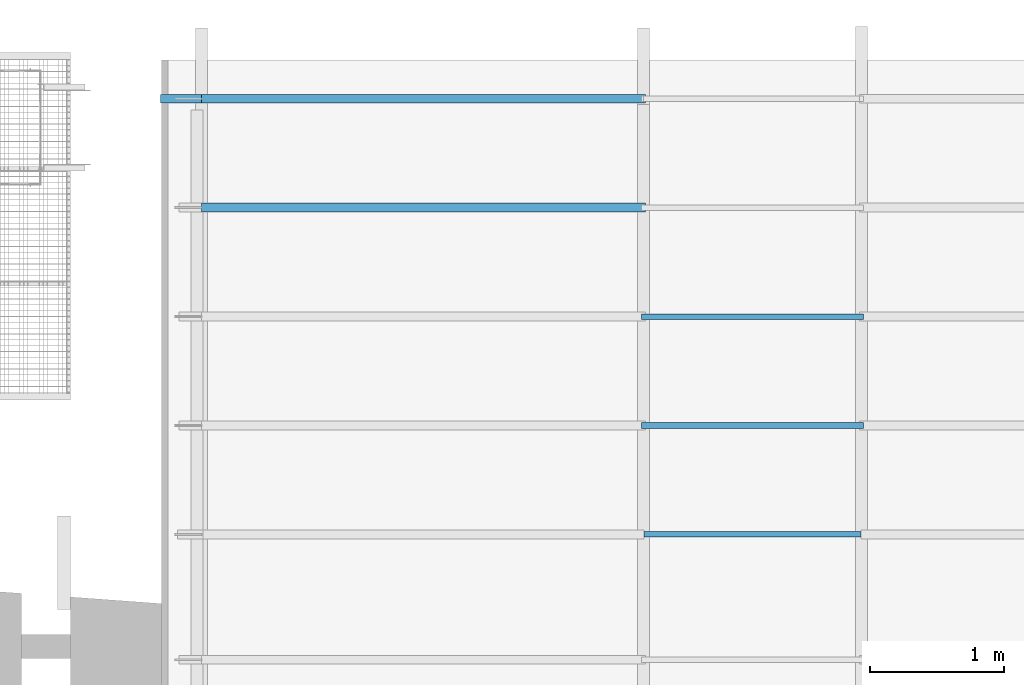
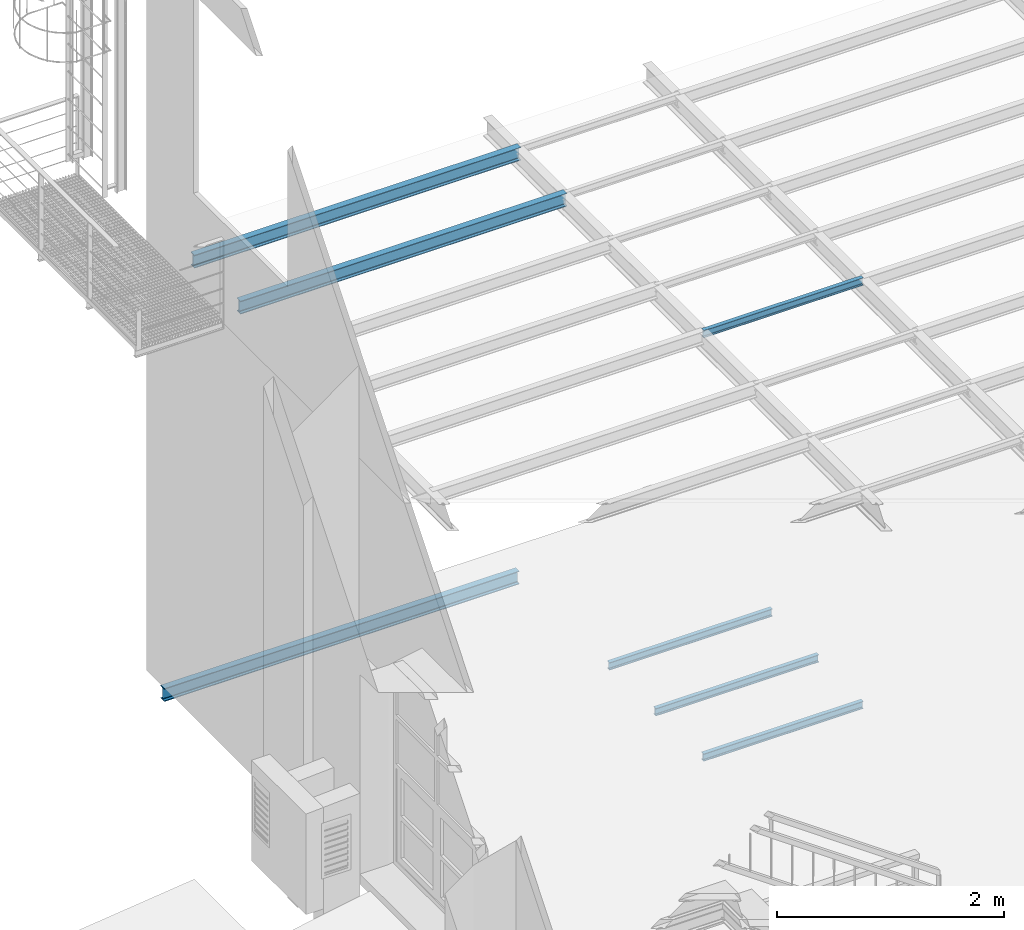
# One storey, part 19 of 33: 7 beams.
"""IFC2X3 building model written with IfcOpenShell, lengths in metres."""

from ifc_helpers import new_model, entity, si_unit, converted_unit, derived_unit, direction, frame, frame_2d, origin, place, context, subcontext, project, spatial, polyline, circle_curve, parameter, trimmed, segment, composite_curve, outline, extrude, material, type_object, element, save


model = new_model("IFC2X3")

# Units and contexts
model_context = context("Model", 3, precision=1e-05, world=origin(), true_north=direction((6.12303176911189e-17, 1.0)))
body_context = subcontext(model_context, "Body", "Model", "MODEL_VIEW")
ifc_project = project(units=[si_unit("LENGTHUNIT", "METRE"), si_unit("AREAUNIT", "SQUARE_METRE"), si_unit("VOLUMEUNIT", "CUBIC_METRE"), converted_unit("PLANEANGLEUNIT", "DEGREE", entity("IfcRatioMeasure", 0.0174532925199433), si_unit("PLANEANGLEUNIT", "RADIAN"), dimensions=[0, 0, 0, 0, 0, 0, 0]), si_unit("MASSUNIT", "GRAM", prefix="KILO"), derived_unit("MASSDENSITYUNIT", [(si_unit("MASSUNIT", "GRAM", prefix="KILO"), 1), (si_unit("LENGTHUNIT", "METRE"), -3)]), derived_unit("MOMENTOFINERTIAUNIT", [(si_unit("LENGTHUNIT", "METRE"), 4)]), si_unit("TIMEUNIT", "SECOND"), si_unit("FREQUENCYUNIT", "HERTZ"), si_unit("THERMODYNAMICTEMPERATUREUNIT", "DEGREE_CELSIUS"), derived_unit("THERMALTRANSMITTANCEUNIT", [(si_unit("MASSUNIT", "GRAM", prefix="KILO"), 1), (si_unit("THERMODYNAMICTEMPERATUREUNIT", "KELVIN"), -1), (si_unit("TIMEUNIT", "SECOND"), -3)]), derived_unit("VOLUMETRICFLOWRATEUNIT", [(si_unit("LENGTHUNIT", "METRE"), 3), (si_unit("TIMEUNIT", "SECOND"), -1)]), si_unit("ELECTRICCURRENTUNIT", "AMPERE"), si_unit("ELECTRICVOLTAGEUNIT", "VOLT"), si_unit("POWERUNIT", "WATT"), si_unit("FORCEUNIT", "NEWTON", prefix="KILO"), si_unit("ILLUMINANCEUNIT", "LUX"), si_unit("LUMINOUSFLUXUNIT", "LUMEN"), si_unit("LUMINOUSINTENSITYUNIT", "CANDELA"), derived_unit("USERDEFINED", [(si_unit("MASSUNIT", "GRAM", prefix="KILO"), -1), (si_unit("LENGTHUNIT", "METRE"), -2), (si_unit("TIMEUNIT", "SECOND"), 3), (si_unit("LUMINOUSFLUXUNIT", "LUMEN"), 1)]), derived_unit("LINEARVELOCITYUNIT", [(si_unit("LENGTHUNIT", "METRE"), 1), (si_unit("TIMEUNIT", "SECOND"), -1)]), si_unit("PRESSUREUNIT", "PASCAL"), derived_unit("USERDEFINED", [(si_unit("LENGTHUNIT", "METRE"), -2), (si_unit("MASSUNIT", "GRAM", prefix="KILO"), 1), (si_unit("TIMEUNIT", "SECOND"), -2)]), derived_unit("LINEARFORCEUNIT", [(si_unit("MASSUNIT", "GRAM", prefix="KILO"), 1), (si_unit("LENGTHUNIT", "METRE"), 1), (si_unit("TIMEUNIT", "SECOND"), -2), (si_unit("LENGTHUNIT", "METRE"), -1)]), derived_unit("PLANARFORCEUNIT", [(si_unit("MASSUNIT", "GRAM", prefix="KILO"), 1), (si_unit("LENGTHUNIT", "METRE"), 1), (si_unit("TIMEUNIT", "SECOND"), -2), (si_unit("LENGTHUNIT", "METRE"), -2)])], contexts=[model_context])

# Site, building, storey
site_placement = place(None, origin())
site = spatial("IfcSite", under=ifc_project, at=site_placement, Name="Superficie", CompositionType="ELEMENT")
building_placement = place(site_placement, origin())
building = spatial("IfcBuilding", under=site, at=building_placement, Name="Telegestiones", CompositionType="ELEMENT")
storey_placement = place(building_placement, frame((0.0, 0.0, 4.94)))
storey = spatial("IfcBuildingStorey", under=building, at=storey_placement, Name="Nivel 1_NPT", CompositionType="ELEMENT", Elevation=4.94)

# Beams
ifc_material = material(Name="Metal - Acero - 345 MPa")
beam_type_1 = type_object("IfcBeamType", Name="IPN - Secciones en I con alas cónicas:IPN 140", PredefinedType="NOTDEFINED")
beam_1_placement = place(storey_placement, frame((6.02684358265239, 13.4536072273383, 0.0)))
element("IfcBeam", 1, at=beam_1_placement, inside=storey, type_object=beam_type_1, material=ifc_material, Name="IPN - Secciones en I con alas cónicas:IPN 140", ObjectType="IPN - Secciones en I con alas cónicas:IPN 140", context=body_context, shape_type="SweptSolid", body=[
    extrude(outline(composite_curve([segment(polyline([(0.0666671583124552, -0.0330000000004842), (0.069999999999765, -0.0330000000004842)]), True, "CONTINUOUS"), segment(polyline([(0.069999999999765, -0.0330000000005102), (0.0700000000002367, 0.0329999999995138)]), True, "CONTINUOUS"), segment(polyline([(0.0700000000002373, 0.03299999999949), (0.0666671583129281, 0.0329999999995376)]), True, "CONTINUOUS"), segment(trimmed(circle_curve(frame_2d((0.0666671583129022, 0.0295999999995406), x_axis=(0.0, 1.0)), 0.00339999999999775), [parameter(0.0)], [parameter(82.0303896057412)], True, "PARAMETER"), True, "CONTINUOUS"), segment(polyline([(0.0632999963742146, 0.0300714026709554), (0.060176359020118, 0.00775970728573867)]), True, "CONTINUOUS"), segment(trimmed(circle_curve(frame_2d((0.0545314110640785, 0.00854999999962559), x_axis=(0.990341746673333, -0.138647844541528)), 0.00570000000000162), [parameter(277.96961039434)], [parameter(0.0)], True, "PARAMETER"), False, "CONTINUOUS"), segment(polyline([(0.0545314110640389, 0.0028499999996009), (-0.054531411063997, 0.0028500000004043)]), True, "CONTINUOUS"), segment(trimmed(circle_curve(frame_2d((-0.0545314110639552, 0.00855000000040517), x_axis=(0.0, -1.0)), 0.00570000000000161), [parameter(277.969610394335)], [parameter(0.0)], True, "PARAMETER"), False, "CONTINUOUS"), segment(polyline([(-0.0601763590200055, 0.00775970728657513), (-0.0632999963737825, 0.0300714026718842)]), True, "CONTINUOUS"), segment(trimmed(circle_curve(frame_2d((-0.0666671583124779, 0.0296000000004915), x_axis=(0.990341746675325, 0.138647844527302)), 0.00339999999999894), [parameter(0.0)], [parameter(82.0303896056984)], True, "PARAMETER"), True, "CONTINUOUS"), segment(polyline([(-0.0666671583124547, 0.0330000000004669), (-0.0699999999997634, 0.0330000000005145)]), True, "CONTINUOUS"), segment(polyline([(-0.0699999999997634, 0.0330000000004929), (-0.0700000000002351, -0.0329999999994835)]), True, "CONTINUOUS"), segment(polyline([(-0.0700000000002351, -0.0329999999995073), (-0.0666671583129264, -0.0329999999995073)]), True, "CONTINUOUS"), segment(trimmed(circle_curve(frame_2d((-0.066667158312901, -0.0295999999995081), x_axis=(0.0, -1.0)), 0.00339999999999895), [parameter(0.0)], [parameter(82.0303896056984)], True, "PARAMETER"), True, "CONTINUOUS"), segment(polyline([(-0.0632999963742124, -0.0300714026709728), (-0.0601763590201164, -0.00775970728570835)]), True, "CONTINUOUS"), segment(trimmed(circle_curve(frame_2d((-0.0545314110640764, -0.00854999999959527), x_axis=(-0.990341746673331, 0.138647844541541)), 0.00570000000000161), [parameter(277.969610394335)], [parameter(0.0)], True, "PARAMETER"), False, "CONTINUOUS"), segment(polyline([(-0.0545314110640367, -0.00284999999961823), (0.0545314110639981, -0.00285000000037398)]), True, "CONTINUOUS"), segment(trimmed(circle_curve(frame_2d((0.0545314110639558, -0.00855000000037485), x_axis=(0.0, 1.0)), 0.00570000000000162), [parameter(277.96961039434)], [parameter(0.0)], True, "PARAMETER"), False, "CONTINUOUS"), segment(polyline([(0.0601763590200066, -0.00775970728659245), (0.0632999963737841, -0.0300714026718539)]), True, "CONTINUOUS"), segment(trimmed(circle_curve(frame_2d((0.0666671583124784, -0.0296000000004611), x_axis=(-0.990341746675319, -0.138647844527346)), 0.00339999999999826), [parameter(0.0)], [parameter(82.030389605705)], True, "PARAMETER"), True, "CONTINUOUS")], self_intersect=False)), frame((0.000484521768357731, 0.0, -0.100000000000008), z_axis=(1.0, 0.0, 0.0), x_axis=(0.0, 0.0, -1.0)), (0.0, 0.0, 1.0), 3.617),
])
beam_2_placement = place(storey_placement, frame((6.3348126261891, 13.4536072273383, 4.56)))
element("IfcBeam", 2, at=beam_2_placement, inside=storey, type_object=beam_type_1, material=ifc_material, Name="IPN - Secciones en I con alas cónicas:IPN 140", ObjectType="IPN - Secciones en I con alas cónicas:IPN 140", context=body_context, shape_type="SweptSolid", body=[
    extrude(outline(composite_curve([segment(polyline([(0.0666671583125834, -0.0330000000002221), (0.0699999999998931, -0.0330000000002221)]), True, "CONTINUOUS"), segment(polyline([(0.0699999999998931, -0.0330000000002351), (0.0700000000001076, 0.0329999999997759)]), True, "CONTINUOUS"), segment(polyline([(0.0700000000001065, 0.0329999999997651), (0.0666671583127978, 0.0329999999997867)]), True, "CONTINUOUS"), segment(trimmed(circle_curve(frame_2d((0.0666671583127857, 0.0295999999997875), x_axis=(0.0, 1.0)), 0.00339999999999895), [parameter(0.0)], [parameter(82.0303896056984)], True, "PARAMETER"), True, "CONTINUOUS"), segment(polyline([(0.0632999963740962, 0.0300714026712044), (0.0601763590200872, 0.00775970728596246)]), True, "CONTINUOUS"), segment(trimmed(circle_curve(frame_2d((0.0545314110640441, 0.00854999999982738), x_axis=(0.990341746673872, -0.13864784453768)), 0.00570000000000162), [parameter(277.969610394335)], [parameter(0.0)], True, "PARAMETER"), False, "CONTINUOUS"), segment(polyline([(0.0545314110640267, 0.00284999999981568), (-0.0545314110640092, 0.00285000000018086)]), True, "CONTINUOUS"), segment(trimmed(circle_curve(frame_2d((-0.0545314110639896, 0.00855000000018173), x_axis=(0.0, -1.0)), 0.00570000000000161), [parameter(277.969610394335)], [parameter(0.0)], True, "PARAMETER"), False, "CONTINUOUS"), segment(polyline([(-0.0601763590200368, 0.00775970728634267), (-0.0632999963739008, 0.0300714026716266)]), True, "CONTINUOUS"), segment(trimmed(circle_curve(frame_2d((-0.0666671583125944, 0.0296000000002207), x_axis=(0.990341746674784, 0.138647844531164)), 0.00339999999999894), [parameter(0.0)], [parameter(82.0303896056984)], True, "PARAMETER"), True, "CONTINUOUS"), segment(polyline([(-0.0666671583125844, 0.0330000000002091), (-0.0699999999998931, 0.0330000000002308)]), True, "CONTINUOUS"), segment(polyline([(-0.0699999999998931, 0.0330000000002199), (-0.0700000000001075, -0.0329999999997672)]), True, "CONTINUOUS"), segment(polyline([(-0.0700000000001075, -0.0329999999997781), (-0.0666671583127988, -0.0329999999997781)]), True, "CONTINUOUS"), segment(trimmed(circle_curve(frame_2d((-0.0666671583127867, -0.0295999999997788), x_axis=(0.0, -1.0)), 0.00339999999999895), [parameter(0.0)], [parameter(82.0303896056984)], True, "PARAMETER"), True, "CONTINUOUS"), segment(polyline([(-0.0632999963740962, -0.0300714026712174), (-0.0601763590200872, -0.0077597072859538)]), True, "CONTINUOUS"), segment(trimmed(circle_curve(frame_2d((-0.0545314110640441, -0.00854999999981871), x_axis=(-0.990341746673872, 0.13864784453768)), 0.00570000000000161), [parameter(277.969610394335)], [parameter(0.0)], True, "PARAMETER"), False, "CONTINUOUS"), segment(polyline([(-0.0545314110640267, -0.00284999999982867), (0.0545314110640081, -0.0028500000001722)]), True, "CONTINUOUS"), segment(trimmed(circle_curve(frame_2d((0.0545314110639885, -0.00855000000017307), x_axis=(0.0, 1.0)), 0.00570000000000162), [parameter(277.969610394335)], [parameter(0.0)], True, "PARAMETER"), False, "CONTINUOUS"), segment(polyline([(0.0601763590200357, -0.00775970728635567), (0.0632999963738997, -0.0300714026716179)]), True, "CONTINUOUS"), segment(trimmed(circle_curve(frame_2d((0.0666671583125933, -0.029600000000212), x_axis=(-0.990341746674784, -0.138647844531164)), 0.00339999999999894), [parameter(0.0)], [parameter(82.0303896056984)], True, "PARAMETER"), True, "CONTINUOUS")], self_intersect=False)), frame((0.0, 0.0, -0.100000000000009), z_axis=(1.0, 0.0, 0.0), x_axis=(0.0, 0.0, -1.0)), (0.0, 0.0, 1.0), 3.325),
])
beam_3_placement = place(storey_placement, frame((6.3348126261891, 12.6381072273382, 4.56)))
element("IfcBeam", 3, at=beam_3_placement, inside=storey, type_object=beam_type_1, material=ifc_material, Name="IPN - Secciones en I con alas cónicas:IPN 140", ObjectType="IPN - Secciones en I con alas cónicas:IPN 140", context=body_context, shape_type="SweptSolid", body=[
    extrude(outline(composite_curve([segment(polyline([(0.0666671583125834, -0.0330000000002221), (0.0699999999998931, -0.0330000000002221)]), True, "CONTINUOUS"), segment(polyline([(0.0699999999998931, -0.0330000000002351), (0.0700000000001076, 0.0329999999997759)]), True, "CONTINUOUS"), segment(polyline([(0.0700000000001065, 0.0329999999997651), (0.0666671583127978, 0.0329999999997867)]), True, "CONTINUOUS"), segment(trimmed(circle_curve(frame_2d((0.0666671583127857, 0.0295999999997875), x_axis=(0.0, 1.0)), 0.00339999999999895), [parameter(0.0)], [parameter(82.0303896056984)], True, "PARAMETER"), True, "CONTINUOUS"), segment(polyline([(0.0632999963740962, 0.0300714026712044), (0.0601763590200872, 0.00775970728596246)]), True, "CONTINUOUS"), segment(trimmed(circle_curve(frame_2d((0.0545314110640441, 0.00854999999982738), x_axis=(0.990341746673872, -0.13864784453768)), 0.00570000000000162), [parameter(277.969610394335)], [parameter(0.0)], True, "PARAMETER"), False, "CONTINUOUS"), segment(polyline([(0.0545314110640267, 0.00284999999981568), (-0.0545314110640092, 0.00285000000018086)]), True, "CONTINUOUS"), segment(trimmed(circle_curve(frame_2d((-0.0545314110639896, 0.00855000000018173), x_axis=(0.0, -1.0)), 0.00570000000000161), [parameter(277.969610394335)], [parameter(0.0)], True, "PARAMETER"), False, "CONTINUOUS"), segment(polyline([(-0.0601763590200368, 0.00775970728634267), (-0.0632999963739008, 0.0300714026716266)]), True, "CONTINUOUS"), segment(trimmed(circle_curve(frame_2d((-0.0666671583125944, 0.0296000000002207), x_axis=(0.990341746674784, 0.138647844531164)), 0.00339999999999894), [parameter(0.0)], [parameter(82.0303896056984)], True, "PARAMETER"), True, "CONTINUOUS"), segment(polyline([(-0.0666671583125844, 0.0330000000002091), (-0.0699999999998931, 0.0330000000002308)]), True, "CONTINUOUS"), segment(polyline([(-0.0699999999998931, 0.0330000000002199), (-0.0700000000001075, -0.0329999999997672)]), True, "CONTINUOUS"), segment(polyline([(-0.0700000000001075, -0.0329999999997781), (-0.0666671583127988, -0.0329999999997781)]), True, "CONTINUOUS"), segment(trimmed(circle_curve(frame_2d((-0.0666671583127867, -0.0295999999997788), x_axis=(0.0, -1.0)), 0.00339999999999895), [parameter(0.0)], [parameter(82.0303896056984)], True, "PARAMETER"), True, "CONTINUOUS"), segment(polyline([(-0.0632999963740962, -0.0300714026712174), (-0.0601763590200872, -0.0077597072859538)]), True, "CONTINUOUS"), segment(trimmed(circle_curve(frame_2d((-0.0545314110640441, -0.00854999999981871), x_axis=(-0.990341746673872, 0.13864784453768)), 0.00570000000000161), [parameter(277.969610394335)], [parameter(0.0)], True, "PARAMETER"), False, "CONTINUOUS"), segment(polyline([(-0.0545314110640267, -0.00284999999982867), (0.0545314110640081, -0.0028500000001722)]), True, "CONTINUOUS"), segment(trimmed(circle_curve(frame_2d((0.0545314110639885, -0.00855000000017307), x_axis=(0.0, 1.0)), 0.00570000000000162), [parameter(277.969610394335)], [parameter(0.0)], True, "PARAMETER"), False, "CONTINUOUS"), segment(polyline([(0.0601763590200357, -0.00775970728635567), (0.0632999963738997, -0.0300714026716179)]), True, "CONTINUOUS"), segment(trimmed(circle_curve(frame_2d((0.0666671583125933, -0.029600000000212), x_axis=(-0.990341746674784, -0.138647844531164)), 0.00339999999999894), [parameter(0.0)], [parameter(82.0303896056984)], True, "PARAMETER"), True, "CONTINUOUS")], self_intersect=False)), frame((0.0, 0.0, -0.100000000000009), z_axis=(1.0, 0.0, 0.0), x_axis=(0.0, 0.0, -1.0)), (0.0, 0.0, 1.0), 3.325),
])
beam_type_2 = type_object("IfcBeamType", Name="IPN - Secciones en I con alas cónicas:IPN 80", PredefinedType="NOTDEFINED")
beam_4_placement = place(storey_placement, frame((9.64481262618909, 10.1916072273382, 0.0)))
element("IfcBeam", 4, at=beam_4_placement, inside=storey, type_object=beam_type_2, material=ifc_material, Name="IPN - Secciones en I con alas cónicas:IPN 80", ObjectType="IPN - Secciones en I con alas cónicas:IPN 80", context=body_context, shape_type="SweptSolid", body=[
    extrude(outline(composite_curve([segment(polyline([(0.0375704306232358, -0.0210000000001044), (0.039999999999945, -0.0210000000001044)]), True, "CONTINUOUS"), segment(polyline([(0.039999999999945, -0.0210000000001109), (0.0400000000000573, 0.0209999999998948)]), True, "CONTINUOUS"), segment(polyline([(0.0400000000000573, 0.0209999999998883), (0.0375704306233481, 0.0209999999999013)]), True, "CONTINUOUS"), segment(trimmed(circle_curve(frame_2d((0.0375704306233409, 0.0186999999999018), x_axis=(0.0, 1.0)), 0.00229999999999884), [parameter(0.0)], [parameter(82.0303896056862)], True, "PARAMETER"), True, "CONTINUOUS"), segment(polyline([(0.0352926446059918, 0.0190188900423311), (0.0333732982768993, 0.00530927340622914)]), True, "CONTINUOUS"), segment(trimmed(circle_curve(frame_2d((0.0295109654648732, 0.00584999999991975), x_axis=(0.990341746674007, -0.138647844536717)), 0.00389999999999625), [parameter(277.969610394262)], [parameter(0.0)], True, "PARAMETER"), False, "CONTINUOUS"), segment(polyline([(0.0295109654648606, 0.00194999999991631), (-0.0295109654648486, 0.00195000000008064)]), True, "CONTINUOUS"), segment(trimmed(circle_curve(frame_2d((-0.0295109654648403, 0.00585000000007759), x_axis=(0.0, -1.0)), 0.00389999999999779), [parameter(277.969610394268)], [parameter(0.0)], True, "PARAMETER"), False, "CONTINUOUS"), segment(polyline([(-0.0333732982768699, 0.00530927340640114), (-0.035292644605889, 0.0190188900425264)]), True, "CONTINUOUS"), segment(trimmed(circle_curve(frame_2d((-0.0375704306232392, 0.0187000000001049), x_axis=(0.990341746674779, 0.138647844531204)), 0.00229999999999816), [parameter(0.0)], [parameter(82.0303896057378)], True, "PARAMETER"), True, "CONTINUOUS"), segment(polyline([(-0.0375704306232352, 0.0210000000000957), (-0.0399999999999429, 0.0210000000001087)]), True, "CONTINUOUS"), segment(polyline([(-0.0399999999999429, 0.0210000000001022), (-0.0400000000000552, -0.0209999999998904)]), True, "CONTINUOUS"), segment(polyline([(-0.0400000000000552, -0.0209999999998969), (-0.0375704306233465, -0.0209999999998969)]), True, "CONTINUOUS"), segment(trimmed(circle_curve(frame_2d((-0.0375704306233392, -0.0186999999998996), x_axis=(0.0, -1.0)), 0.00229999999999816), [parameter(0.0)], [parameter(82.0303896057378)], True, "PARAMETER"), True, "CONTINUOUS"), segment(polyline([(-0.0352926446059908, -0.0190188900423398), (-0.0333732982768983, -0.00530927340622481)]), True, "CONTINUOUS"), segment(trimmed(circle_curve(frame_2d((-0.0295109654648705, -0.00584999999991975), x_axis=(-0.990341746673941, 0.138647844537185)), 0.0038999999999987), [parameter(277.969610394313)], [parameter(0.0)], True, "PARAMETER"), False, "CONTINUOUS"), segment(polyline([(-0.029510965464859, -0.00194999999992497), (0.0295109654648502, -0.00195000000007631)]), True, "CONTINUOUS"), segment(trimmed(circle_curve(frame_2d((0.0295109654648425, -0.00585000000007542), x_axis=(0.0, 1.0)), 0.00389999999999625), [parameter(277.969610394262)], [parameter(0.0)], True, "PARAMETER"), False, "CONTINUOUS"), segment(polyline([(0.0333732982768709, -0.0053092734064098), (0.0352926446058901, -0.0190188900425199)]), True, "CONTINUOUS"), segment(trimmed(circle_curve(frame_2d((0.0375704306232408, -0.0187000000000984), x_axis=(-0.990341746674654, -0.138647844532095)), 0.00229999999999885), [parameter(0.0)], [parameter(82.0303896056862)], True, "PARAMETER"), True, "CONTINUOUS")], self_intersect=False)), frame((0.00299999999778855, 0.0, -0.0700000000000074), z_axis=(1.0, 0.0, 0.0), x_axis=(0.0, 0.0, -1.0)), (0.0, 0.0, 1.0), 1.625),
])
beam_5_placement = place(storey_placement, frame((9.64481262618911, 11.8226072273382, 0.0)))
element("IfcBeam", 5, at=beam_5_placement, inside=storey, type_object=beam_type_2, material=ifc_material, Name="IPN - Secciones en I con alas cónicas:IPN 80", ObjectType="IPN - Secciones en I con alas cónicas:IPN 80", context=body_context, shape_type="SweptSolid", body=[
    extrude(outline(composite_curve([segment(polyline([(0.0375704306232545, -0.0210000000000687), (0.0399999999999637, -0.0210000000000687)]), True, "CONTINUOUS"), segment(polyline([(0.0399999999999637, -0.0210000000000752), (0.0400000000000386, 0.0209999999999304)]), True, "CONTINUOUS"), segment(polyline([(0.0400000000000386, 0.0209999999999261), (0.0375704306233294, 0.0209999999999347)]), True, "CONTINUOUS"), segment(trimmed(circle_curve(frame_2d((0.0375704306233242, 0.0186999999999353), x_axis=(0.0, 1.0)), 0.00229999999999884), [parameter(0.0)], [parameter(82.0303896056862)], True, "PARAMETER"), True, "CONTINUOUS"), segment(polyline([(0.0352926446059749, 0.0190188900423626), (0.0333732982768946, 0.00530927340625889)]), True, "CONTINUOUS"), segment(trimmed(circle_curve(frame_2d((0.029510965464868, 0.00584999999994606), x_axis=(0.99034174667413, -0.138647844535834)), 0.00389999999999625), [parameter(277.969610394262)], [parameter(0.0)], True, "PARAMETER"), False, "CONTINUOUS"), segment(polyline([(0.0295109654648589, 0.00194999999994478), (-0.0295109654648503, 0.00195000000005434)]), True, "CONTINUOUS"), segment(trimmed(circle_curve(frame_2d((-0.0295109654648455, 0.00585000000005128), x_axis=(0.0, -1.0)), 0.00389999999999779), [parameter(277.969610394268)], [parameter(0.0)], True, "PARAMETER"), False, "CONTINUOUS"), segment(polyline([(-0.0333732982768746, 0.00530927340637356), (-0.035292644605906, 0.0190188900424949)]), True, "CONTINUOUS"), segment(trimmed(circle_curve(frame_2d((-0.0375704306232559, 0.0187000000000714), x_axis=(0.990341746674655, 0.138647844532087)), 0.00229999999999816), [parameter(0.0)], [parameter(82.0303896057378)], True, "PARAMETER"), True, "CONTINUOUS"), segment(polyline([(-0.037570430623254, 0.0210000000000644), (-0.0399999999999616, 0.021000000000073)]), True, "CONTINUOUS"), segment(polyline([(-0.0399999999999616, 0.0210000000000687), (-0.0400000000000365, -0.0209999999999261)]), True, "CONTINUOUS"), segment(polyline([(-0.0400000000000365, -0.0209999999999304), (-0.0375704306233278, -0.0209999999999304)]), True, "CONTINUOUS"), segment(trimmed(circle_curve(frame_2d((-0.0375704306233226, -0.0186999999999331), x_axis=(0.0, -1.0)), 0.00229999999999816), [parameter(0.0)], [parameter(82.0303896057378)], True, "PARAMETER"), True, "CONTINUOUS"), segment(polyline([(-0.0352926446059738, -0.0190188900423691), (-0.0333732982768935, -0.00530927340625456)]), True, "CONTINUOUS"), segment(trimmed(circle_curve(frame_2d((-0.0295109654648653, -0.00584999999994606), x_axis=(-0.990341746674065, 0.138647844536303)), 0.0038999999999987), [parameter(277.969610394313)], [parameter(0.0)], True, "PARAMETER"), False, "CONTINUOUS"), segment(polyline([(-0.0295109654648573, -0.00194999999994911), (0.0295109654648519, -0.00195000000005)]), True, "CONTINUOUS"), segment(trimmed(circle_curve(frame_2d((0.0295109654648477, -0.00585000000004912), x_axis=(0.0, 1.0)), 0.00389999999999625), [parameter(277.969610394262)], [parameter(0.0)], True, "PARAMETER"), False, "CONTINUOUS"), segment(polyline([(0.0333732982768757, -0.00530927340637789), (0.0352926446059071, -0.0190188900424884)]), True, "CONTINUOUS"), segment(trimmed(circle_curve(frame_2d((0.0375704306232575, -0.0187000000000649), x_axis=(-0.99034174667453, -0.138647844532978)), 0.00229999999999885), [parameter(0.0)], [parameter(82.0303896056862)], True, "PARAMETER"), True, "CONTINUOUS")], self_intersect=False)), frame((-0.0149999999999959, 0.0, -0.0700000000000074), z_axis=(1.0, 0.0, 0.0), x_axis=(0.0, 0.0, -1.0)), (0.0, 0.0, 1.0), 1.66),
])
beam_6_placement = place(storey_placement, frame((9.64481262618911, 11.0071072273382, 0.0)))
element("IfcBeam", 6, at=beam_6_placement, inside=storey, type_object=beam_type_2, material=ifc_material, Name="IPN - Secciones en I con alas cónicas:IPN 80", ObjectType="IPN - Secciones en I con alas cónicas:IPN 80", context=body_context, shape_type="SweptSolid", body=[
    extrude(outline(composite_curve([segment(polyline([(0.0375704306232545, -0.0210000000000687), (0.0399999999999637, -0.0210000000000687)]), True, "CONTINUOUS"), segment(polyline([(0.0399999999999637, -0.0210000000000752), (0.0400000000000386, 0.0209999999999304)]), True, "CONTINUOUS"), segment(polyline([(0.0400000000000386, 0.0209999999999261), (0.0375704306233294, 0.0209999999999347)]), True, "CONTINUOUS"), segment(trimmed(circle_curve(frame_2d((0.0375704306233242, 0.0186999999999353), x_axis=(0.0, 1.0)), 0.00229999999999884), [parameter(0.0)], [parameter(82.0303896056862)], True, "PARAMETER"), True, "CONTINUOUS"), segment(polyline([(0.0352926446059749, 0.0190188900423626), (0.0333732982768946, 0.00530927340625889)]), True, "CONTINUOUS"), segment(trimmed(circle_curve(frame_2d((0.029510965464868, 0.00584999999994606), x_axis=(0.99034174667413, -0.138647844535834)), 0.00389999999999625), [parameter(277.969610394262)], [parameter(0.0)], True, "PARAMETER"), False, "CONTINUOUS"), segment(polyline([(0.0295109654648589, 0.00194999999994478), (-0.0295109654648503, 0.00195000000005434)]), True, "CONTINUOUS"), segment(trimmed(circle_curve(frame_2d((-0.0295109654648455, 0.00585000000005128), x_axis=(0.0, -1.0)), 0.00389999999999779), [parameter(277.969610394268)], [parameter(0.0)], True, "PARAMETER"), False, "CONTINUOUS"), segment(polyline([(-0.0333732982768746, 0.00530927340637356), (-0.035292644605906, 0.0190188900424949)]), True, "CONTINUOUS"), segment(trimmed(circle_curve(frame_2d((-0.0375704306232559, 0.0187000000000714), x_axis=(0.990341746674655, 0.138647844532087)), 0.00229999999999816), [parameter(0.0)], [parameter(82.0303896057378)], True, "PARAMETER"), True, "CONTINUOUS"), segment(polyline([(-0.037570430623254, 0.0210000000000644), (-0.0399999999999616, 0.021000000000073)]), True, "CONTINUOUS"), segment(polyline([(-0.0399999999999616, 0.0210000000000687), (-0.0400000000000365, -0.0209999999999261)]), True, "CONTINUOUS"), segment(polyline([(-0.0400000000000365, -0.0209999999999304), (-0.0375704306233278, -0.0209999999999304)]), True, "CONTINUOUS"), segment(trimmed(circle_curve(frame_2d((-0.0375704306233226, -0.0186999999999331), x_axis=(0.0, -1.0)), 0.00229999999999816), [parameter(0.0)], [parameter(82.0303896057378)], True, "PARAMETER"), True, "CONTINUOUS"), segment(polyline([(-0.0352926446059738, -0.0190188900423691), (-0.0333732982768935, -0.00530927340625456)]), True, "CONTINUOUS"), segment(trimmed(circle_curve(frame_2d((-0.0295109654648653, -0.00584999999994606), x_axis=(-0.990341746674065, 0.138647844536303)), 0.0038999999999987), [parameter(277.969610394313)], [parameter(0.0)], True, "PARAMETER"), False, "CONTINUOUS"), segment(polyline([(-0.0295109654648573, -0.00194999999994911), (0.0295109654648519, -0.00195000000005)]), True, "CONTINUOUS"), segment(trimmed(circle_curve(frame_2d((0.0295109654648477, -0.00585000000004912), x_axis=(0.0, 1.0)), 0.00389999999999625), [parameter(277.969610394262)], [parameter(0.0)], True, "PARAMETER"), False, "CONTINUOUS"), segment(polyline([(0.0333732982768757, -0.00530927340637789), (0.0352926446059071, -0.0190188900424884)]), True, "CONTINUOUS"), segment(trimmed(circle_curve(frame_2d((0.0375704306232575, -0.0187000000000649), x_axis=(-0.99034174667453, -0.138647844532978)), 0.00229999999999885), [parameter(0.0)], [parameter(82.0303896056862)], True, "PARAMETER"), True, "CONTINUOUS")], self_intersect=False)), frame((-0.0149999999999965, 0.0, -0.0700000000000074), z_axis=(1.0, 0.0, 0.0), x_axis=(0.0, 0.0, -1.0)), (0.0, 0.0, 1.0), 1.66),
])
beam_7_placement = place(storey_placement, frame((9.64481262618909, 10.1916072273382, 4.56)))
element("IfcBeam", 7, at=beam_7_placement, inside=storey, type_object=beam_type_2, material=ifc_material, Name="IPN - Secciones en I con alas cónicas:IPN 80", ObjectType="IPN - Secciones en I con alas cónicas:IPN 80", context=body_context, shape_type="SweptSolid", body=[
    extrude(outline(composite_curve([segment(polyline([(0.0375704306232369, -0.0210000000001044), (0.0399999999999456, -0.0210000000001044)]), True, "CONTINUOUS"), segment(polyline([(0.0399999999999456, -0.0210000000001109), (0.0400000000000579, 0.0209999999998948)]), True, "CONTINUOUS"), segment(polyline([(0.040000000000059, 0.0209999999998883), (0.0375704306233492, 0.0209999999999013)]), True, "CONTINUOUS"), segment(trimmed(circle_curve(frame_2d((0.037570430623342, 0.0186999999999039), x_axis=(0.0, 1.0)), 0.00229999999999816), [parameter(0.0)], [parameter(82.0303896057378)], True, "PARAMETER"), True, "CONTINUOUS"), segment(polyline([(0.0352926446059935, 0.0190188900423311), (0.0333732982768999, 0.00530927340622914)]), True, "CONTINUOUS"), segment(trimmed(circle_curve(frame_2d((0.0295109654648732, 0.00584999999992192), x_axis=(0.990341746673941, -0.138647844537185)), 0.0038999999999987), [parameter(277.969610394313)], [parameter(0.0)], True, "PARAMETER"), False, "CONTINUOUS"), segment(polyline([(0.0295109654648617, 0.00194999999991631), (-0.029510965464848, 0.00195000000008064)]), True, "CONTINUOUS"), segment(trimmed(circle_curve(frame_2d((-0.0295109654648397, 0.00585000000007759), x_axis=(0.0, -1.0)), 0.00389999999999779), [parameter(277.969610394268)], [parameter(0.0)], True, "PARAMETER"), False, "CONTINUOUS"), segment(polyline([(-0.0333732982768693, 0.00530927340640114), (-0.0352926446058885, 0.0190188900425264)]), True, "CONTINUOUS"), segment(trimmed(circle_curve(frame_2d((-0.0375704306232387, 0.0187000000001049), x_axis=(0.990341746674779, 0.138647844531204)), 0.00229999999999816), [parameter(0.0)], [parameter(82.0303896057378)], True, "PARAMETER"), True, "CONTINUOUS"), segment(polyline([(-0.0375704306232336, 0.0210000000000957), (-0.0399999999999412, 0.0210000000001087)]), True, "CONTINUOUS"), segment(polyline([(-0.0399999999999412, 0.0210000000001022), (-0.0400000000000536, -0.0209999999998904)]), True, "CONTINUOUS"), segment(polyline([(-0.0400000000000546, -0.0209999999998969), (-0.0375704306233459, -0.0209999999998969)]), True, "CONTINUOUS"), segment(trimmed(circle_curve(frame_2d((-0.0375704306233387, -0.0186999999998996), x_axis=(0.0, -1.0)), 0.00229999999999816), [parameter(0.0)], [parameter(82.0303896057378)], True, "PARAMETER"), True, "CONTINUOUS"), segment(polyline([(-0.0352926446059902, -0.0190188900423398), (-0.0333732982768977, -0.00530927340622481)]), True, "CONTINUOUS"), segment(trimmed(circle_curve(frame_2d((-0.0295109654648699, -0.00584999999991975), x_axis=(-0.990341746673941, 0.138647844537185)), 0.0038999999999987), [parameter(277.969610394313)], [parameter(0.0)], True, "PARAMETER"), False, "CONTINUOUS"), segment(polyline([(-0.0295109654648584, -0.00194999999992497), (0.0295109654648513, -0.00195000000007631)]), True, "CONTINUOUS"), segment(trimmed(circle_curve(frame_2d((0.029510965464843, -0.00585000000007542), x_axis=(0.0, 1.0)), 0.0038999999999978), [parameter(277.969610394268)], [parameter(0.0)], True, "PARAMETER"), False, "CONTINUOUS"), segment(polyline([(0.0333732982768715, -0.0053092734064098), (0.0352926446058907, -0.0190188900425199)]), True, "CONTINUOUS"), segment(trimmed(circle_curve(frame_2d((0.0375704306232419, -0.0187000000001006), x_axis=(-0.990341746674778, -0.138647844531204)), 0.00229999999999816), [parameter(0.0)], [parameter(82.0303896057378)], True, "PARAMETER"), True, "CONTINUOUS")], self_intersect=False)), frame((0.00299999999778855, 0.0, -0.0700000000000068), z_axis=(1.0, 0.0, 0.0), x_axis=(0.0, 0.0, -1.0)), (0.0, 0.0, 1.0), 1.625),
])

save(model, "model.ifc")
